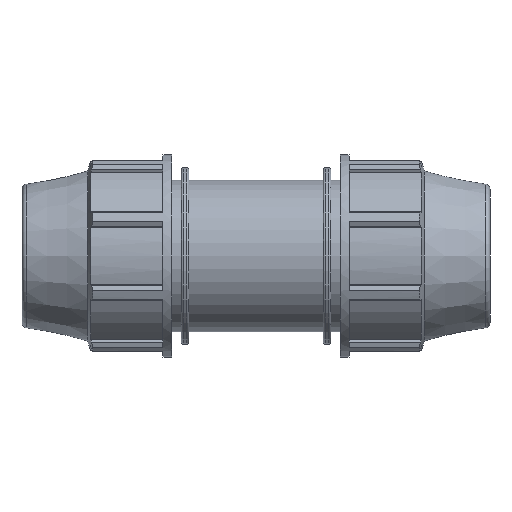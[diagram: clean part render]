
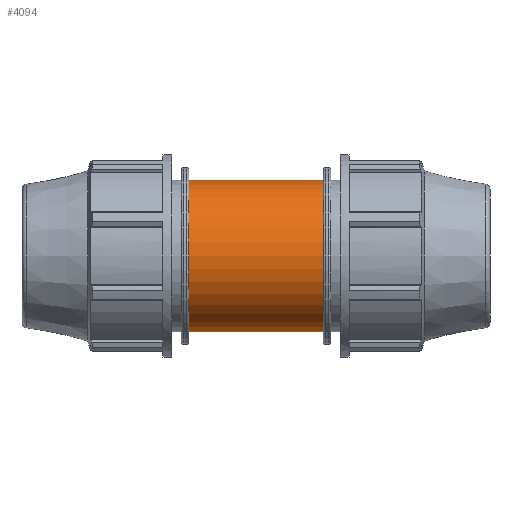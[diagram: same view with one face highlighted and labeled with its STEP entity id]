
A CAD part, front view. The second image highlights one B-rep face of the part: STEP entity #4094.
In plain terms, the highlighted cylindrical face has radius 36.005 mm (diameter 72.009 mm), a full revolution.
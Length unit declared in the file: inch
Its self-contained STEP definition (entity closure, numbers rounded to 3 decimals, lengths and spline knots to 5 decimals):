
#244=FACE_BOUND('',#471,.T.);
#262=FACE_OUTER_BOUND('',#470,.T.);
#470=EDGE_LOOP('',(#2615,#2616,#2617,#2618,#2619,#2620));
#471=EDGE_LOOP('',(#2621,#2622));
#695=B_SPLINE_CURVE_WITH_KNOTS('',3,(#5975,#5976,#5977,#5978,#5979,#5980,
#5981,#5982,#5983,#5984,#5985,#5986,#5987,#5988,#5989,#5990,#5991,#5992),
 .UNSPECIFIED.,.F.,.F.,(4,2,2,2,2,2,2,2,4),(0.,0.46499,0.92998,
1.39497,1.85996,2.32024,2.78052,3.2408,
3.70108),.UNSPECIFIED.);
#696=B_SPLINE_CURVE_WITH_KNOTS('',3,(#5993,#5994,#5995,#5996,#5997,#5998,
#5999,#6000,#6001,#6002,#6003,#6004,#6005,#6006,#6007,#6008,#6009,#6010,
#6011,#6012,#6013,#6014,#6015,#6016,#6017,#6018,#6019,#6020,#6021,#6022,
#6023,#6024,#6025,#6026,#6027,#6028,#6029,#6030,#6031,#6032,#6033,#6034,
#6035,#6036,#6037,#6038,#6039,#6040,#6041,#6042),.UNSPECIFIED.,.F.,.F.,
(4,2,2,2,2,2,2,2,2,2,2,2,2,2,2,2,2,2,2,2,2,2,2,2,4),(3.70108,4.16137,
4.62165,5.08193,5.54221,6.0072,6.47219,
6.93718,7.40217,7.86716,8.33215,8.79714,
9.26213,9.72241,10.18269,10.64297,11.10325,
11.56354,12.02382,12.4841,12.94438,13.40937,
13.87436,14.33935,14.80434),.UNSPECIFIED.);
#706=LINE('',#5969,#1026);
#1026=VECTOR('',#4770,1.4175);
#1349=CIRCLE('',#4327,1.4175);
#1350=CIRCLE('',#4328,1.4175);
#1351=CIRCLE('',#4329,1.4175);
#1352=CIRCLE('',#4330,1.4175);
#1572=VERTEX_POINT('',#5964);
#1573=VERTEX_POINT('',#5965);
#1574=VERTEX_POINT('',#5968);
#1575=VERTEX_POINT('',#5970);
#1576=VERTEX_POINT('',#5973);
#1577=VERTEX_POINT('',#5974);
#1997=EDGE_CURVE('',#1572,#1573,#1349,.T.);
#1998=EDGE_CURVE('',#1573,#1572,#1350,.T.);
#1999=EDGE_CURVE('',#1573,#1574,#706,.T.);
#2000=EDGE_CURVE('',#1574,#1575,#1351,.T.);
#2001=EDGE_CURVE('',#1575,#1574,#1352,.T.);
#2002=EDGE_CURVE('',#1576,#1577,#695,.T.);
#2003=EDGE_CURVE('',#1577,#1576,#696,.T.);
#2615=ORIENTED_EDGE('',*,*,#1997,.F.);
#2616=ORIENTED_EDGE('',*,*,#1998,.F.);
#2617=ORIENTED_EDGE('',*,*,#1999,.T.);
#2618=ORIENTED_EDGE('',*,*,#2000,.T.);
#2619=ORIENTED_EDGE('',*,*,#2001,.T.);
#2620=ORIENTED_EDGE('',*,*,#1999,.F.);
#2621=ORIENTED_EDGE('',*,*,#2002,.F.);
#2622=ORIENTED_EDGE('',*,*,#2003,.F.);
#3843=CYLINDRICAL_SURFACE('',#4326,1.4175);
#4094=ADVANCED_FACE('',(#262,#244),#3843,.T.);
#4326=AXIS2_PLACEMENT_3D('',#5963,#4764,#4765);
#4327=AXIS2_PLACEMENT_3D('',#5966,#4766,#4767);
#4328=AXIS2_PLACEMENT_3D('',#5967,#4768,#4769);
#4329=AXIS2_PLACEMENT_3D('',#5971,#4771,#4772);
#4330=AXIS2_PLACEMENT_3D('',#5972,#4773,#4774);
#4764=DIRECTION('center_axis',(1.,0.,0.));
#4765=DIRECTION('ref_axis',(0.,1.,0.));
#4766=DIRECTION('center_axis',(1.,0.,0.));
#4767=DIRECTION('ref_axis',(0.,0.,-1.));
#4768=DIRECTION('center_axis',(1.,0.,0.));
#4769=DIRECTION('ref_axis',(0.,0.,-1.));
#4770=DIRECTION('',(-1.,0.,0.));
#4771=DIRECTION('center_axis',(1.,0.,0.));
#4772=DIRECTION('ref_axis',(0.,0.,-1.));
#4773=DIRECTION('center_axis',(1.,0.,0.));
#4774=DIRECTION('ref_axis',(0.,0.,-1.));
#5963=CARTESIAN_POINT('Origin',(0.88857,0.,0.));
#5964=CARTESIAN_POINT('',(1.25273,1.4175,0.));
#5965=CARTESIAN_POINT('',(1.25273,-1.4175,0.));
#5966=CARTESIAN_POINT('Origin',(1.25273,0.,0.));
#5967=CARTESIAN_POINT('Origin',(1.25273,0.,0.));
#5968=CARTESIAN_POINT('',(-1.25273,-1.4175,0.));
#5969=CARTESIAN_POINT('',(0.88857,-1.4175,0.));
#5970=CARTESIAN_POINT('',(-1.25273,1.4175,0.));
#5971=CARTESIAN_POINT('Origin',(-1.25273,0.,0.));
#5972=CARTESIAN_POINT('Origin',(-1.25273,0.,0.));
#5973=CARTESIAN_POINT('',(0.,1.06977,0.93));
#5974=CARTESIAN_POINT('',(0.93,1.4175,0.));
#5975=CARTESIAN_POINT('Ctrl Pts',(0.,1.06977,0.93));
#5976=CARTESIAN_POINT('Ctrl Pts',(0.06102,1.06977,0.93));
#5977=CARTESIAN_POINT('Ctrl Pts',(0.12306,1.07515,0.92391));
#5978=CARTESIAN_POINT('Ctrl Pts',(0.24479,1.09578,0.89935));
#5979=CARTESIAN_POINT('Ctrl Pts',(0.3045,1.11096,0.88089));
#5980=CARTESIAN_POINT('Ctrl Pts',(0.41803,1.14728,0.83304));
#5981=CARTESIAN_POINT('Ctrl Pts',(0.47197,1.1684,0.80359));
#5982=CARTESIAN_POINT('Ctrl Pts',(0.57153,1.21204,0.73612));
#5983=CARTESIAN_POINT('Ctrl Pts',(0.61715,1.23454,0.69807));
#5984=CARTESIAN_POINT('Ctrl Pts',(0.69766,1.27671,0.61755));
#5985=CARTESIAN_POINT('Ctrl Pts',(0.73564,1.298,0.57215));
#5986=CARTESIAN_POINT('Ctrl Pts',(0.80325,1.33748,0.47256));
#5987=CARTESIAN_POINT('Ctrl Pts',(0.83289,1.35564,0.41836));
#5988=CARTESIAN_POINT('Ctrl Pts',(0.88101,1.38572,0.30424));
#5989=CARTESIAN_POINT('Ctrl Pts',(0.89952,1.39766,0.2442));
#5990=CARTESIAN_POINT('Ctrl Pts',(0.92402,1.41355,0.12228));
#5991=CARTESIAN_POINT('Ctrl Pts',(0.93,1.4175,0.0604));
#5992=CARTESIAN_POINT('Ctrl Pts',(0.93,1.4175,0.));
#5993=CARTESIAN_POINT('Ctrl Pts',(0.93,1.4175,0.));
#5994=CARTESIAN_POINT('Ctrl Pts',(0.93,1.4175,-0.0604));
#5995=CARTESIAN_POINT('Ctrl Pts',(0.92402,1.41355,-0.12228));
#5996=CARTESIAN_POINT('Ctrl Pts',(0.89952,1.39766,-0.2442));
#5997=CARTESIAN_POINT('Ctrl Pts',(0.88101,1.38572,-0.30424));
#5998=CARTESIAN_POINT('Ctrl Pts',(0.83289,1.35564,-0.41836));
#5999=CARTESIAN_POINT('Ctrl Pts',(0.80325,1.33748,-0.47256));
#6000=CARTESIAN_POINT('Ctrl Pts',(0.73564,1.298,-0.57215));
#6001=CARTESIAN_POINT('Ctrl Pts',(0.69766,1.27671,-0.61755));
#6002=CARTESIAN_POINT('Ctrl Pts',(0.61715,1.23454,-0.69807));
#6003=CARTESIAN_POINT('Ctrl Pts',(0.57153,1.21204,-0.73612));
#6004=CARTESIAN_POINT('Ctrl Pts',(0.47197,1.1684,-0.80359));
#6005=CARTESIAN_POINT('Ctrl Pts',(0.41803,1.14728,-0.83304));
#6006=CARTESIAN_POINT('Ctrl Pts',(0.3045,1.11096,-0.88089));
#6007=CARTESIAN_POINT('Ctrl Pts',(0.24479,1.09578,-0.89935));
#6008=CARTESIAN_POINT('Ctrl Pts',(0.12306,1.07515,-0.92391));
#6009=CARTESIAN_POINT('Ctrl Pts',(0.06102,1.06977,-0.93));
#6010=CARTESIAN_POINT('Ctrl Pts',(-0.06102,1.06977,
-0.93));
#6011=CARTESIAN_POINT('Ctrl Pts',(-0.12306,1.07515,-0.92391));
#6012=CARTESIAN_POINT('Ctrl Pts',(-0.24479,1.09578,-0.89935));
#6013=CARTESIAN_POINT('Ctrl Pts',(-0.3045,1.11096,-0.88089));
#6014=CARTESIAN_POINT('Ctrl Pts',(-0.41803,1.14728,-0.83304));
#6015=CARTESIAN_POINT('Ctrl Pts',(-0.47197,1.1684,-0.80359));
#6016=CARTESIAN_POINT('Ctrl Pts',(-0.57153,1.21204,-0.73612));
#6017=CARTESIAN_POINT('Ctrl Pts',(-0.61715,1.23454,-0.69807));
#6018=CARTESIAN_POINT('Ctrl Pts',(-0.69766,1.27671,-0.61755));
#6019=CARTESIAN_POINT('Ctrl Pts',(-0.73564,1.298,-0.57215));
#6020=CARTESIAN_POINT('Ctrl Pts',(-0.80325,1.33748,-0.47256));
#6021=CARTESIAN_POINT('Ctrl Pts',(-0.83289,1.35564,-0.41836));
#6022=CARTESIAN_POINT('Ctrl Pts',(-0.88101,1.38572,-0.30424));
#6023=CARTESIAN_POINT('Ctrl Pts',(-0.89952,1.39766,-0.2442));
#6024=CARTESIAN_POINT('Ctrl Pts',(-0.92402,1.41355,-0.12228));
#6025=CARTESIAN_POINT('Ctrl Pts',(-0.93,1.4175,-0.0604));
#6026=CARTESIAN_POINT('Ctrl Pts',(-0.93,1.4175,0.0604));
#6027=CARTESIAN_POINT('Ctrl Pts',(-0.92402,1.41355,0.12228));
#6028=CARTESIAN_POINT('Ctrl Pts',(-0.89952,1.39766,0.2442));
#6029=CARTESIAN_POINT('Ctrl Pts',(-0.88101,1.38572,0.30424));
#6030=CARTESIAN_POINT('Ctrl Pts',(-0.83289,1.35564,0.41836));
#6031=CARTESIAN_POINT('Ctrl Pts',(-0.80325,1.33748,0.47256));
#6032=CARTESIAN_POINT('Ctrl Pts',(-0.73564,1.298,0.57215));
#6033=CARTESIAN_POINT('Ctrl Pts',(-0.69766,1.27671,0.61755));
#6034=CARTESIAN_POINT('Ctrl Pts',(-0.61715,1.23454,0.69807));
#6035=CARTESIAN_POINT('Ctrl Pts',(-0.57153,1.21204,0.73612));
#6036=CARTESIAN_POINT('Ctrl Pts',(-0.47197,1.1684,0.80359));
#6037=CARTESIAN_POINT('Ctrl Pts',(-0.41803,1.14728,0.83304));
#6038=CARTESIAN_POINT('Ctrl Pts',(-0.3045,1.11096,0.88089));
#6039=CARTESIAN_POINT('Ctrl Pts',(-0.24479,1.09578,0.89935));
#6040=CARTESIAN_POINT('Ctrl Pts',(-0.12306,1.07515,0.92391));
#6041=CARTESIAN_POINT('Ctrl Pts',(-0.06102,1.06977,
0.93));
#6042=CARTESIAN_POINT('Ctrl Pts',(0.,1.06977,
0.93));
